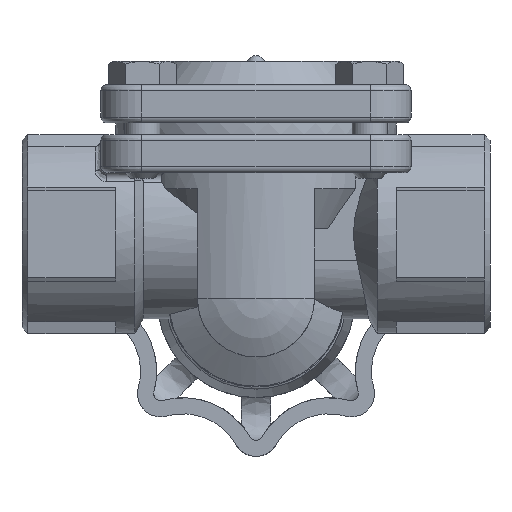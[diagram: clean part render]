
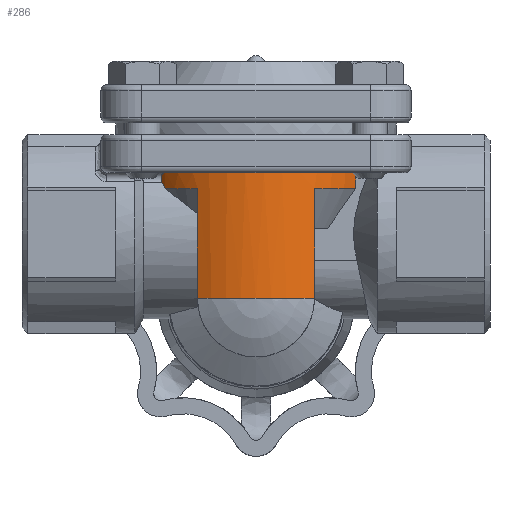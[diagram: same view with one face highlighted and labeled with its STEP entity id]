
A CAD part, front view. The second image highlights one B-rep face of the part: STEP entity #286.
In plain terms, the highlighted cylindrical face has radius 19.75 mm (diameter 39.5 mm), a partial arc.
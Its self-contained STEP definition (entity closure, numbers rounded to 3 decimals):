
#286=ADVANCED_FACE('',(#3188),#3187,.T.);
#3187=CYLINDRICAL_SURFACE('',#11407,19.75);
#3188=FACE_OUTER_BOUND('',#11408,.T.);
#11404=CARTESIAN_POINT('',(0.,0.,3.5));
#11405=DIRECTION('',(0.,0.,-1.));
#11406=DIRECTION('',(1.,0.,0.));
#11407=AXIS2_PLACEMENT_3D('',#11404,#11405,#11406);
#11408=EDGE_LOOP('',(#17548,#17549,#17550,#17551,#17552,#17553,#17554,#17555,#17556,#17557));
#17548=ORIENTED_EDGE('',*,*,#20623,.T.);
#17549=ORIENTED_EDGE('',*,*,#20624,.T.);
#17550=ORIENTED_EDGE('',*,*,#20625,.F.);
#17551=ORIENTED_EDGE('',*,*,#20626,.F.);
#17552=ORIENTED_EDGE('',*,*,#20627,.T.);
#17553=ORIENTED_EDGE('',*,*,#20628,.T.);
#17554=ORIENTED_EDGE('',*,*,#20620,.T.);
#17555=ORIENTED_EDGE('',*,*,#20629,.F.);
#17556=ORIENTED_EDGE('',*,*,#20630,.T.);
#17557=ORIENTED_EDGE('',*,*,#20631,.T.);
#20620=EDGE_CURVE('',#27554,#27555,#27556,.T.);
#20623=EDGE_CURVE('',#27575,#27576,#27577,.T.);
#20624=EDGE_CURVE('',#27576,#27583,#27584,.T.);
#20625=EDGE_CURVE('',#27590,#27583,#27591,.T.);
#20626=EDGE_CURVE('',#27597,#27590,#27598,.T.);
#20627=EDGE_CURVE('',#27597,#27604,#27605,.T.);
#20628=EDGE_CURVE('',#27604,#27554,#27611,.T.);
#20629=EDGE_CURVE('',#27617,#27555,#27618,.T.);
#20630=EDGE_CURVE('',#27617,#27624,#27625,.T.);
#20631=EDGE_CURVE('',#27624,#27575,#27631,.T.);
#27554=VERTEX_POINT('',#39071);
#27555=VERTEX_POINT('',#39072);
#27556=CIRCLE('',#39076,19.75);
#27575=VERTEX_POINT('',#39088);
#27576=VERTEX_POINT('',#39089);
#27577=LINE('',#39090,#39091);
#27583=VERTEX_POINT('',#39093);
#27584=CIRCLE('',#39097,19.75);
#27590=VERTEX_POINT('',#39098);
#27591=LINE('',#39099,#39100);
#27597=VERTEX_POINT('',#39102);
#27598=CIRCLE('',#39106,19.75);
#27604=VERTEX_POINT('',#39107);
#27605=(BOUNDED_CURVE() B_SPLINE_CURVE(3,(#39108,#39109,#39110,#39111,#39112,#39113,#39114,#39115,#39116,#39117,#39118,#39119,#39120,#39121,#39122,#39123),.UNSPECIFIED.,.F.,.F.) B_SPLINE_CURVE_WITH_KNOTS((4,2,2,2,2,2,2,4),(0.,0.,0.001,0.001,0.002,0.002,0.002,0.002),.UNSPECIFIED.) CURVE() GEOMETRIC_REPRESENTATION_ITEM() RATIONAL_B_SPLINE_CURVE((1.,1.,1.,1.,1.,1.,1.,1.,1.,1.,1.,1.,1.,1.,1.,1.)) REPRESENTATION_ITEM('') );
#27611=(BOUNDED_CURVE() B_SPLINE_CURVE(3,(#39124,#39125,#39126,#39127),.UNSPECIFIED.,.F.,.F.) B_SPLINE_CURVE_WITH_KNOTS((4,4),(0.002,0.004),.UNSPECIFIED.) CURVE() GEOMETRIC_REPRESENTATION_ITEM() RATIONAL_B_SPLINE_CURVE((1.,1.,1.,1.)) REPRESENTATION_ITEM('') );
#27617=VERTEX_POINT('',#39128);
#27618=LINE('',#39129,#39130);
#27624=VERTEX_POINT('',#39132);
#27625=CIRCLE('',#39136,19.75);
#27631=CIRCLE('',#39140,19.75);
#39071=CARTESIAN_POINT('',(-15.506,-12.232,11.286));
#39072=CARTESIAN_POINT('',(-10.,-17.031,11.286));
#39073=CARTESIAN_POINT('',(0.,0.,11.286));
#39074=DIRECTION('',(0.,0.,1.));
#39075=DIRECTION('',(1.,0.,0.));
#39076=AXIS2_PLACEMENT_3D('',#39073,#39074,#39075);
#39088=CARTESIAN_POINT('',(10.,-17.031,-7.5));
#39089=CARTESIAN_POINT('',(10.,-17.031,11.286));
#39090=CARTESIAN_POINT('',(10.,-17.031,-7.5));
#39091=VECTOR('',#39092,18.786);
#39092=DIRECTION('',(0.,0.,1.));
#39093=CARTESIAN_POINT('',(17.031,-10.,11.286));
#39094=CARTESIAN_POINT('',(0.,0.,11.286));
#39095=DIRECTION('',(0.,0.,1.));
#39096=DIRECTION('',(1.,0.,0.));
#39097=AXIS2_PLACEMENT_3D('',#39094,#39095,#39096);
#39098=CARTESIAN_POINT('',(17.031,-10.,14.));
#39099=CARTESIAN_POINT('',(17.031,-10.,14.));
#39100=VECTOR('',#39101,2.714);
#39101=DIRECTION('',(0.,0.,-1.));
#39102=CARTESIAN_POINT('',(-15.494,-12.247,14.));
#39103=CARTESIAN_POINT('',(0.,0.,14.));
#39104=DIRECTION('',(0.,0.,1.));
#39105=DIRECTION('',(1.,0.,0.));
#39106=AXIS2_PLACEMENT_3D('',#39103,#39104,#39105);
#39107=CARTESIAN_POINT('',(-16.087,-11.457,12.387));
#39108=CARTESIAN_POINT('',(-15.494,-12.247,14.));
#39109=CARTESIAN_POINT('',(-15.558,-12.167,14.));
#39110=CARTESIAN_POINT('',(-15.62,-12.087,13.99));
#39111=CARTESIAN_POINT('',(-15.741,-11.929,13.951));
#39112=CARTESIAN_POINT('',(-15.8,-11.85,13.922));
#39113=CARTESIAN_POINT('',(-15.968,-11.624,13.801));
#39114=CARTESIAN_POINT('',(-16.067,-11.486,13.676));
#39115=CARTESIAN_POINT('',(-16.171,-11.338,13.428));
#39116=CARTESIAN_POINT('',(-16.198,-11.3,13.336));
#39117=CARTESIAN_POINT('',(-16.231,-11.252,13.14));
#39118=CARTESIAN_POINT('',(-16.238,-11.243,13.037));
#39119=CARTESIAN_POINT('',(-16.228,-11.256,12.833));
#39120=CARTESIAN_POINT('',(-16.213,-11.279,12.732));
#39121=CARTESIAN_POINT('',(-16.163,-11.351,12.547));
#39122=CARTESIAN_POINT('',(-16.128,-11.399,12.462));
#39123=CARTESIAN_POINT('',(-16.087,-11.457,12.387));
#39124=CARTESIAN_POINT('',(-16.087,-11.457,12.387));
#39125=CARTESIAN_POINT('',(-15.891,-11.732,12.033));
#39126=CARTESIAN_POINT('',(-15.697,-11.99,11.666));
#39127=CARTESIAN_POINT('',(-15.506,-12.232,11.286));
#39128=CARTESIAN_POINT('',(-10.,-17.031,-7.5));
#39129=CARTESIAN_POINT('',(-10.,-17.031,-7.5));
#39130=VECTOR('',#39131,18.786);
#39131=DIRECTION('',(0.,0.,1.));
#39132=CARTESIAN_POINT('',(0.,-19.75,-7.5));
#39133=CARTESIAN_POINT('',(0.,0.,-7.5));
#39134=DIRECTION('',(0.,0.,1.));
#39135=DIRECTION('',(1.,0.,0.));
#39136=AXIS2_PLACEMENT_3D('',#39133,#39134,#39135);
#39137=CARTESIAN_POINT('',(0.,0.,-7.5));
#39138=DIRECTION('',(0.,0.,1.));
#39139=DIRECTION('',(1.,0.,0.));
#39140=AXIS2_PLACEMENT_3D('',#39137,#39138,#39139);
